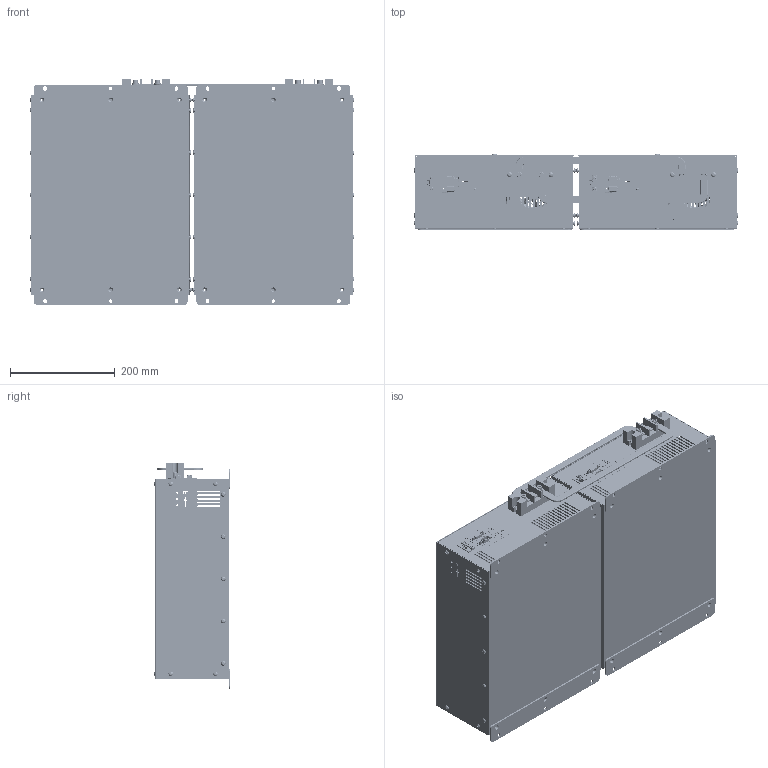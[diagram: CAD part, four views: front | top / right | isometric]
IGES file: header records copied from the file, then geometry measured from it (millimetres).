
Global section: file name: X4COM-BUSBAR; native system: Autodesk Inventor 2021; preprocessor: unknown; author: eunsol jang; date: 20231107.143518; units: millimetre
Bounding box: 619.24 x 145.97 x 431 mm (x, y, z)
Volume: 1591058.6 mm3; surface area: 2114667.3 mm2
Topology: 126 solids, 126 shells, 11706 faces, 31554 edges, 20860 vertices
Faces by surface type: bspline 11706
